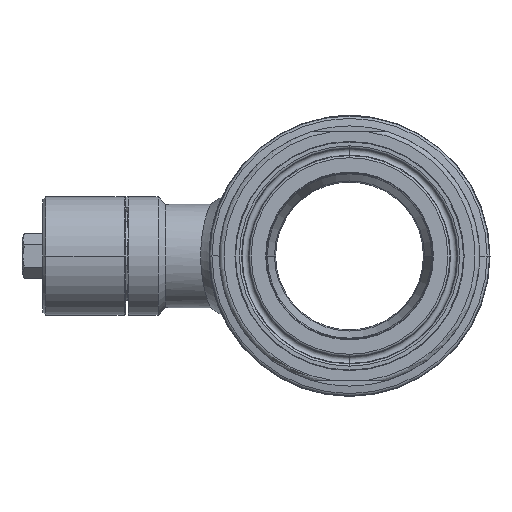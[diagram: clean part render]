
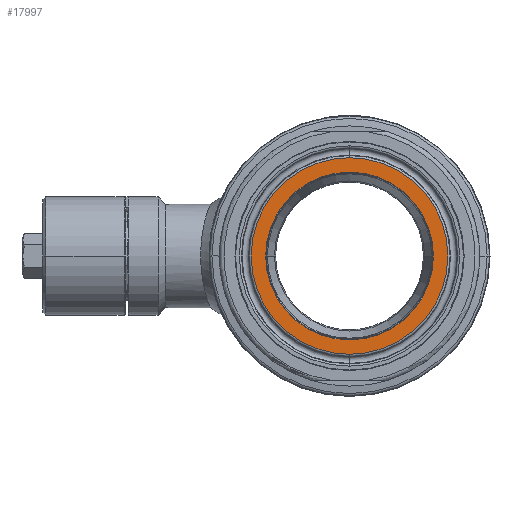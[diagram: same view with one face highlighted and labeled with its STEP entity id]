
A CAD part, left-side view. The second image highlights one B-rep face of the part: STEP entity #17997.
In plain terms, the highlighted planar face has unit normal (-1, 0, 0).
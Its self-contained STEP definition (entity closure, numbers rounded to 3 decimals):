
#1930=CARTESIAN_POINT('',(-68.,0.,0.));
#1931=DIRECTION('',(-1.,0.,0.));
#1932=DIRECTION('',(0.,0.,-1.));
#1933=AXIS2_PLACEMENT_3D('',#1930,#1931,#1932);
#1935=CARTESIAN_POINT('',(-68.,0.,0.));
#1936=DIRECTION('',(-1.,0.,0.));
#1937=DIRECTION('',(0.,0.,1.));
#1938=AXIS2_PLACEMENT_3D('',#1935,#1936,#1937);
#1940=CARTESIAN_POINT('',(-68.,0.,0.));
#1941=DIRECTION('',(1.,0.,0.));
#1942=DIRECTION('',(0.,1.,0.));
#1943=AXIS2_PLACEMENT_3D('',#1940,#1941,#1942);
#1945=CARTESIAN_POINT('',(-68.,0.,0.));
#1946=DIRECTION('',(1.,0.,0.));
#1947=DIRECTION('',(0.,-1.,0.));
#1948=AXIS2_PLACEMENT_3D('',#1945,#1946,#1947);
#14819=CARTESIAN_POINT('',(-68.,28.35,0.));
#14820=CARTESIAN_POINT('',(-68.,-28.35,0.));
#14821=VERTEX_POINT('',#14819);
#14822=VERTEX_POINT('',#14820);
#14843=CARTESIAN_POINT('',(-68.,0.,-33.245));
#14844=CARTESIAN_POINT('',(-68.,0.,33.245));
#14845=VERTEX_POINT('',#14843);
#14846=VERTEX_POINT('',#14844);
#17981=CARTESIAN_POINT('',(-68.,0.,0.));
#17982=DIRECTION('',(-1.,0.,0.));
#17983=DIRECTION('',(0.,1.,0.));
#17984=AXIS2_PLACEMENT_3D('',#17981,#17982,#17983);
#17985=PLANE('',#17984);
#17987=ORIENTED_EDGE('',*,*,#17986,.F.);
#17989=ORIENTED_EDGE('',*,*,#17988,.F.);
#17990=EDGE_LOOP('',(#17987,#17989));
#17991=FACE_OUTER_BOUND('',#17990,.F.);
#17993=ORIENTED_EDGE('',*,*,#17992,.F.);
#17994=ORIENTED_EDGE('',*,*,#17971,.F.);
#17995=EDGE_LOOP('',(#17993,#17994));
#17996=FACE_BOUND('',#17995,.F.);
#17997=ADVANCED_FACE('',(#17991,#17996),#17985,.T.);
#1934=CIRCLE('',#1933,33.245);
#1939=CIRCLE('',#1938,33.245);
#1944=CIRCLE('',#1943,28.35);
#1949=CIRCLE('',#1948,28.35);
#17971=EDGE_CURVE('',#14822,#14821,#1949,.T.);
#17986=EDGE_CURVE('',#14845,#14846,#1934,.T.);
#17988=EDGE_CURVE('',#14846,#14845,#1939,.T.);
#17992=EDGE_CURVE('',#14821,#14822,#1944,.T.);
